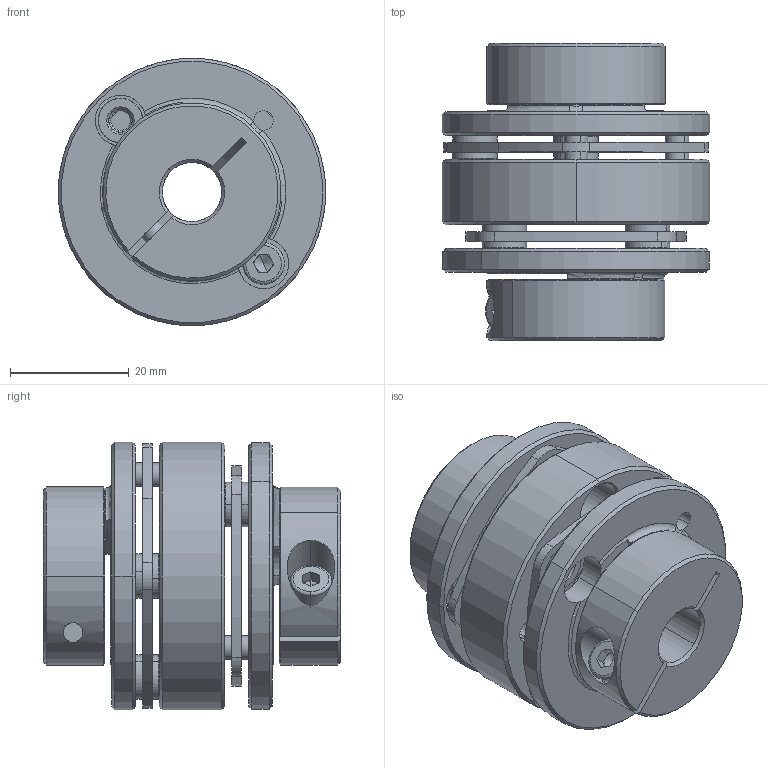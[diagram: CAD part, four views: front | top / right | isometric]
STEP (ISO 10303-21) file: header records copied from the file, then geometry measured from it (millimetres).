
FILE_DESCRIPTION (( 'STEP AP203' ), '1' );
FILE_NAME ('LE2-B-D45L50-10-10.STEP', '2021-11-01T06:27:21', ( '' ), ( '' ), 'SwSTEP 2.0', 'SolidWorks 2018', '' );
FILE_SCHEMA (( 'CONFIG_CONTROL_DESIGN' ));
Length unit declared in the file: millimetre
Products named in the file (1): LE2-B-D45L50-10-10
Bounding box: 45 x 50 x 45 mm (x, y, z)
Volume: 37421.3 mm3; surface area: 23973.9 mm2
Topology: 1 solids, 5 shells, 494 faces, 1194 edges, 732 vertices
Faces by surface type: cylinder 178, cone 154, plane 142, torus 18, bspline 2
Entity records: 14963 total; most frequent: CARTESIAN_POINT 2891, DIRECTION 2748, ORIENTED_EDGE 2364, EDGE_CURVE 1182, AXIS2_PLACEMENT_3D 1123, VERTEX_POINT 732, CIRCLE 630, EDGE_LOOP 586
